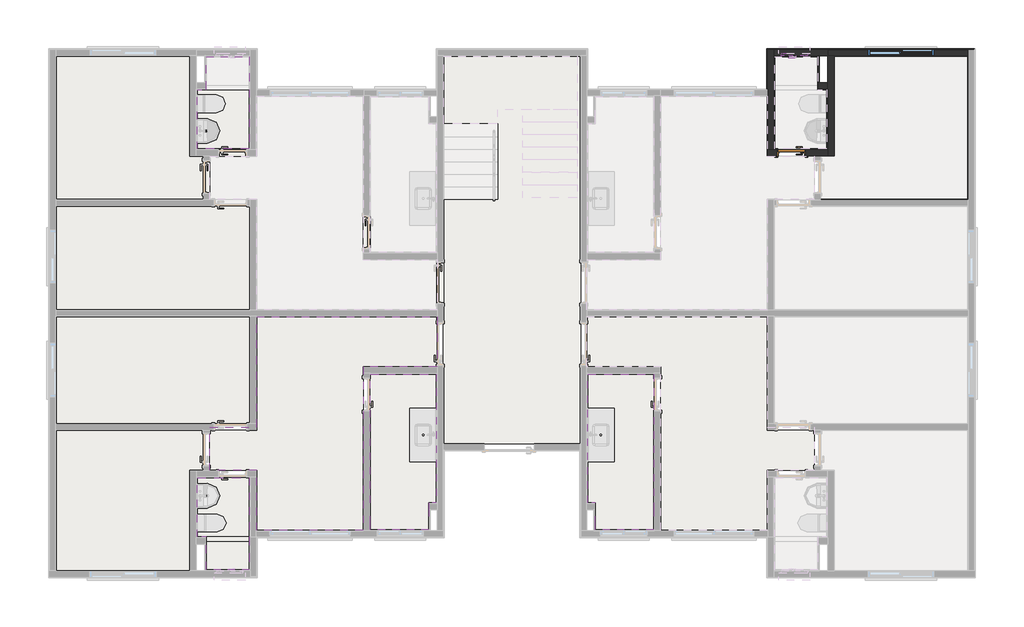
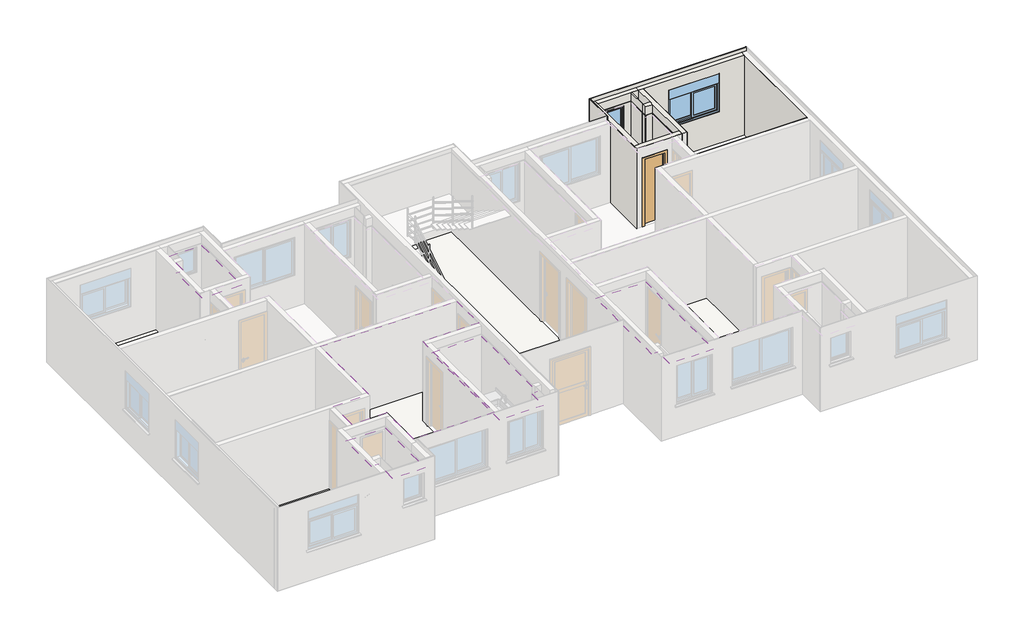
# One storey, part 8 of 9: 22 walls, 15 slabs, 5 coverings, 2 windows, 1 door.
"""IFC4 building model written with IfcOpenShell, lengths in millimetres."""

from ifc_helpers import new_model, si_unit, frame, origin, place, context, project, spatial, polyline, outline, extrude, faceted_brep, transform, mapped, element, save
from components import porta_de_madeira_interna_60_x_210_porta_de_madeira_interna_53f76a03, window_150x120_581fea6a, window_60x80_d31b0025

model = new_model("IFC4")

# Units and contexts
model_context = context("Model", 3, world=origin())
ifc_project = project(units=[si_unit("LENGTHUNIT", "METRE", prefix="MILLI")], contexts=[model_context])

# Site, building, storey
site = spatial("IfcSite", under=ifc_project)
building = spatial("IfcBuilding", under=site)
storey = spatial("IfcBuildingStorey", under=building, Name="2º Pavimento", Elevation=2630.0)

# Coverings
placement = place(None, origin())
element("IfcCovering", 1, ObjectType="Forro - Gesso acartonado + Pintura", at=placement, inside=storey, context=model_context, shape_type="Brep", body=[
    faceted_brep([(8536.99631, 1539.9983274, 4831.0), (7233.0017324, 1539.9983274, 4831.0), (7233.0017324, 2145.0132549, 4831.0), (7233.0017324, 5033.6603139, 4831.0), (8709.9963008, 5033.6603139, 4831.0), (8709.9963008, 2145.0132549, 4831.0), (8536.99631, 2145.0132549, 4831.0), (7233.0017324, 1539.9983274, 4851.0), (8536.99631, 1539.9983274, 4851.0), (8536.99631, 2145.0132549, 4851.0), (8709.9963008, 2145.0132549, 4851.0), (8709.9963008, 5033.6603139, 4851.0), (7233.0017324, 5033.6603139, 4851.0), (7233.0017324, 2145.0132549, 4851.0)], [[[0, 1, 2, 3, 4, 5, 6]], [[7, 8, 9, 10, 11, 12, 13]], [[8, 7, 1, 0]], [[9, 8, 0, 6]], [[10, 9, 6, 5]], [[11, 10, 5, 4]], [[12, 11, 4, 3]], [[7, 13, 12, 3, 2, 1]]]),
    faceted_brep([(7233.0017324, 1539.9983274, 4830.0), (8536.99631, 1539.9983274, 4830.0), (8536.99631, 1539.9983274, 4831.0), (7233.0017324, 1539.9983274, 4831.0), (8536.99631, 2145.0132549, 4830.0), (8536.99631, 2145.0132549, 4831.0), (8709.9963008, 2145.0132549, 4830.0), (8709.9963008, 2145.0132549, 4831.0), (8709.9963008, 5033.6603139, 4830.0), (8709.9963008, 5033.6603139, 4831.0), (7233.0017324, 5033.6603139, 4830.0), (7233.0017324, 5033.6603139, 4831.0), (7233.0017324, 2145.0132549, 4830.0), (7233.0017324, 2145.0132549, 4831.0)], [[[0, 1, 2, 3]], [[1, 4, 5, 2]], [[4, 6, 7, 5]], [[6, 8, 9, 7]], [[8, 10, 11, 9]], [[12, 0, 3, 13, 11, 10]], [[3, 2, 5, 7, 9, 11, 13]], [[0, 12, 10, 8, 6, 4, 1]]]),
])
element("IfcCovering", 2, ObjectType="Forro - Gesso acartonado + Pintura", at=placement, inside=storey, context=model_context, shape_type="Brep", body=[
    faceted_brep([(3339.9976538, 2709.9967615, 4831.0), (4509.9990083, 2709.9967615, 4831.0), (4509.9990083, 1379.9983274, 4831.0), (4509.9990083, 639.9950349, 4831.0), (3549.99398, 639.9950349, 4831.0), (3549.99398, 1379.9983274, 4831.0), (3339.9976538, 1379.9983274, 4831.0), (4509.9990083, 2709.9967615, 4851.0), (3339.9976538, 2709.9967615, 4851.0), (3339.9976538, 1379.9983274, 4851.0), (3549.99398, 1379.9983274, 4851.0), (3549.99398, 639.9950349, 4851.0), (4509.9990083, 639.9950349, 4851.0), (4509.9990083, 1379.9983274, 4851.0)], [[[0, 1, 2, 3, 4, 5, 6]], [[7, 8, 9, 10, 11, 12, 13]], [[8, 7, 1, 0]], [[9, 8, 0, 6]], [[10, 9, 6, 5]], [[11, 10, 5, 4]], [[12, 11, 4, 3]], [[7, 13, 12, 3, 2, 1]]]),
    faceted_brep([(4509.9990083, 2709.9967615, 4830.0), (3339.9976538, 2709.9967615, 4830.0), (3339.9976538, 2709.9967615, 4831.0), (4509.9990083, 2709.9967615, 4831.0), (3339.9976538, 1379.9983274, 4830.0), (3339.9976538, 1379.9983274, 4831.0), (3549.99398, 1379.9983274, 4830.0), (3549.99398, 1379.9983274, 4831.0), (3549.99398, 639.9950349, 4830.0), (3549.99398, 639.9950349, 4831.0), (4509.9990083, 639.9950349, 4830.0), (4509.9990083, 639.9950349, 4831.0), (4509.9990083, 1379.9983274, 4830.0), (4509.9990083, 1379.9983274, 4831.0)], [[[0, 1, 2, 3]], [[1, 4, 5, 2]], [[4, 6, 7, 5]], [[6, 8, 9, 7]], [[8, 10, 11, 9]], [[12, 0, 3, 13, 11, 10]], [[3, 2, 5, 7, 9, 11, 13]], [[0, 12, 10, 8, 6, 4, 1]]]),
])
element("IfcCovering", 3, ObjectType="Forro - Gesso acartonado + Pintura", at=placement, inside=storey, context=model_context, shape_type="Brep", body=[
    faceted_brep([(4509.9990083, 10090.0238664, 4831.0), (3339.9976538, 10090.0238664, 4831.0), (3339.9976538, 11420.0223004, 4831.0), (3549.99398, 11420.0223004, 4831.0), (3549.99398, 12160.025593, 4831.0), (4509.9990083, 12160.025593, 4831.0), (4509.9990083, 11420.0223004, 4831.0), (4509.9990083, 10090.0238664, 4851.0), (4509.9990083, 11420.0223004, 4851.0), (4509.9990083, 12160.025593, 4851.0), (3549.99398, 12160.025593, 4851.0), (3549.99398, 11420.0223004, 4851.0), (3339.9976538, 11420.0223004, 4851.0), (3339.9976538, 10090.0238664, 4851.0)], [[[0, 1, 2, 3, 4, 5, 6]], [[7, 8, 9, 10, 11, 12, 13]], [[7, 13, 1, 0]], [[13, 12, 2, 1]], [[12, 11, 3, 2]], [[11, 10, 4, 3]], [[10, 9, 5, 4]], [[9, 8, 7, 0, 6, 5]]]),
    faceted_brep([(3339.9976538, 10090.0238664, 4830.0), (4509.9990083, 10090.0238664, 4830.0), (4509.9990083, 10090.0238664, 4831.0), (3339.9976538, 10090.0238664, 4831.0), (3339.9976538, 11420.0223004, 4830.0), (3339.9976538, 11420.0223004, 4831.0), (3549.99398, 11420.0223004, 4830.0), (3549.99398, 11420.0223004, 4831.0), (3549.99398, 12160.025593, 4830.0), (3549.99398, 12160.025593, 4831.0), (4509.9990083, 12160.025593, 4830.0), (4509.9990083, 12160.025593, 4831.0), (4509.9990083, 11420.0223004, 4830.0), (4509.9990083, 11420.0223004, 4831.0)], [[[0, 1, 2, 3]], [[4, 0, 3, 5]], [[6, 4, 5, 7]], [[8, 6, 7, 9]], [[10, 8, 9, 11]], [[12, 10, 11, 13, 2, 1]], [[3, 2, 13, 11, 9, 7, 5]], [[1, 0, 4, 6, 8, 10, 12]]]),
])
element("IfcCovering", 4, ObjectType="Forro - Gesso acartonado + Pintura", at=placement, inside=storey, context=model_context, shape_type="Brep", body=[
    faceted_brep([(13586.992975, 1539.9983274, 4831.0), (12282.9983974, 1539.9983274, 4831.0), (12282.9983974, 2145.0132549, 4831.0), (12109.9984066, 2145.0132549, 4831.0), (12109.9984066, 5033.6603139, 4831.0), (13586.992975, 5033.6603139, 4831.0), (13586.992975, 2145.0132549, 4831.0), (13586.992975, 1539.9983274, 4851.0), (13586.992975, 2145.0132549, 4851.0), (13586.992975, 5033.6603139, 4851.0), (12109.9984066, 5033.6603139, 4851.0), (12109.9984066, 2145.0132549, 4851.0), (12282.9983974, 2145.0132549, 4851.0), (12282.9983974, 1539.9983274, 4851.0)], [[[0, 1, 2, 3, 4, 5, 6]], [[7, 8, 9, 10, 11, 12, 13]], [[7, 13, 1, 0]], [[13, 12, 2, 1]], [[12, 11, 3, 2]], [[11, 10, 4, 3]], [[10, 9, 5, 4]], [[9, 8, 7, 0, 6, 5]]]),
    faceted_brep([(12282.9983974, 1539.9983274, 4830.0), (13586.992975, 1539.9983274, 4830.0), (13586.992975, 1539.9983274, 4831.0), (12282.9983974, 1539.9983274, 4831.0), (12282.9983974, 2145.0132549, 4830.0), (12282.9983974, 2145.0132549, 4831.0), (12109.9984066, 2145.0132549, 4830.0), (12109.9984066, 2145.0132549, 4831.0), (12109.9984066, 5033.6603139, 4830.0), (12109.9984066, 5033.6603139, 4831.0), (13586.992975, 5033.6603139, 4830.0), (13586.992975, 5033.6603139, 4831.0), (13586.992975, 2145.0132549, 4830.0), (13586.992975, 2145.0132549, 4831.0)], [[[0, 1, 2, 3]], [[4, 0, 3, 5]], [[6, 4, 5, 7]], [[8, 6, 7, 9]], [[10, 8, 9, 11]], [[12, 10, 11, 13, 2, 1]], [[3, 2, 13, 11, 9, 7, 5]], [[1, 0, 4, 6, 8, 10, 12]]]),
])
element("IfcCovering", 5, ObjectType="Textura Laje", at=placement, inside=storey, context=model_context, shape_type="SweptSolid", body=[
    extrude(outline(polyline([(175.9991825, 624.9953844), (175.9991825, 3773.9951411), (3474.9980641, 3773.9951411), (3474.9980641, 2874.9967615), (3174.9977061, 2874.9967615), (3174.9977061, 624.9953844), (175.9991825, 624.9953844)])), frame((0.0, 0.0, 5138.0), z_axis=(0.0, 0.0, 1.0), x_axis=(1.0, 0.0, 0.0)), (0.0, 0.0, 1.0), 2.0),
    extrude(outline(polyline([(174.9992567, 3926.5903488), (174.9992567, 6325.0103139), (4524.9996867, 6325.0103139), (4524.9996867, 3926.5903488), (174.9992567, 3926.5903488)])), frame((0.0, 0.0, 5138.0), z_axis=(0.0, 0.0, 1.0), x_axis=(1.0, 0.0, 0.0)), (0.0, 0.0, 1.0), 2.0),
    extrude(outline(polyline([(4675.9996867, 3843.9961476), (4675.9996867, 6324.0103139), (8729.9963008, 6324.0103139), (8729.9963008, 5199.6603139), (8709.865378, 5199.6603139), (7066.9986861, 5199.6603139), (7066.9986861, 1525.9983274), (4675.9990083, 1525.9983274), (4675.9990083, 2875.9967615), (3625.9980641, 2875.9967615), (3625.9980641, 3843.9961476), (4675.9996867, 3843.9961476)])), frame((0.0, 0.0, 5138.0), z_axis=(0.0, 0.0, 1.0), x_axis=(1.0, 0.0, 0.0)), (0.0, 0.0, 1.0), 2.0),
])

# Door
porta_de_madeira_interna_60_x_210_porta_de_madeira_interna_shape = porta_de_madeira_interna_60_x_210_porta_de_madeira_interna_53f76a03(model_context)
element("IfcDoor", 6, ObjectType="Porta de Madeira Interna 60 x 210 : Porta de Madeira Interna 60 x 210", at=placement, inside=storey, context=model_context, shape_type="MappedRepresentation", body=[
    mapped(porta_de_madeira_interna_60_x_210_porta_de_madeira_interna_shape, transform((16681.9956991, 10003.1988664, 2630.0), x_axis=(-1.0, 0.0, 0.0), y_axis=(0.0, -1.0, 0.0), z_axis=(0.0, 0.0, 1.0))),
])

# Slabs
element("IfcSlab", 7, ObjectType="Cerâmica piso + Impermeabilização", at=placement, inside=storey, context=model_context, shape_type="SweptSolid", body=[
    extrude(outline(polyline([(4509.99398, 1294.9970972), (4509.99398, 639.9950349), (3549.99398, 639.9950349), (3549.99398, 1294.9970972), (4509.99398, 1294.9970972)])), frame((0.0, 0.0, 2629.0), z_axis=(0.0, 0.0, 1.0), x_axis=(1.0, 0.0, 0.0)), (0.0, 0.0, 1.0), 11.0),
])
element("IfcSlab", 8, ObjectType="Pedra Basalto", at=placement, inside=storey, context=model_context, shape_type="SweptSolid", body=[
    extrude(outline(polyline([(4509.99398, 1284.9970972), (3529.99398, 1284.9970972), (3529.99398, 1384.9970972), (4509.99398, 1384.9970972), (4509.99398, 1284.9970972)])), frame((0.0, 0.0, 2720.0), z_axis=(0.0, 0.0, 1.0), x_axis=(1.0, 0.0, 0.0)), (0.0, 0.0, 1.0), 20.0),
])
element("IfcSlab", 9, ObjectType="Cerâmica", at=placement, inside=storey, context=model_context, shape_type="SweptSolid", body=[
    extrude(outline(polyline([(4509.9990083, 1379.9970972), (3339.9976538, 1379.9970972), (3339.9976538, 2709.9967615), (4509.9990083, 2709.9967615), (4509.9990083, 1379.9970972)])), frame((0.0, 0.0, 2630.0), z_axis=(0.0, 0.0, 1.0), x_axis=(1.0, 0.0, 0.0)), (0.0, 0.0, 1.0), 10.0),
])
element("IfcSlab", 10, ObjectType="Cerâmica", at=placement, inside=storey, context=model_context, shape_type="SweptSolid", body=[
    extrude(outline(polyline([(8709.9963008, 5033.6603139), (8709.9963008, 2145.0132549), (8536.99631, 2145.0132549), (8536.99631, 1539.9983274), (7233.0017324, 1539.9983274), (7233.0017324, 2145.0132549), (7233.0017324, 5033.6603139), (8709.9963008, 5033.6603139)])), frame((0.0, 0.0, 2630.0), z_axis=(0.0, 0.0, 1.0), x_axis=(1.0, 0.0, 0.0)), (0.0, 0.0, 1.0), 10.0),
])
element("IfcSlab", 11, ObjectType="Cerâmica", at=placement, inside=storey, context=model_context, shape_type="SweptSolid", body=[
    extrude(outline(polyline([(4509.9990083, 11420.0235306), (4509.9990083, 10090.0238664), (3339.9976538, 10090.0238664), (3339.9976538, 11420.0235306), (4509.9990083, 11420.0235306)])), frame((0.0, 0.0, 2630.0), z_axis=(0.0, 0.0, 1.0), x_axis=(1.0, 0.0, 0.0)), (0.0, 0.0, 1.0), 10.0),
])
element("IfcSlab", 12, ObjectType="Cerâmica", at=placement, inside=storey, context=model_context, shape_type="SweptSolid", body=[
    extrude(outline(polyline([(8723.9963008, 6324.0103139), (8723.9963008, 5199.6603139), (7066.9986861, 5199.6603139), (7066.9986861, 1519.9983274), (4675.9990083, 1519.9983274), (4675.9990083, 2875.9967615), (3625.9980641, 2875.9967615), (3625.9980641, 3773.9951411), (4675.9996867, 3773.9951411), (4675.9996867, 6324.0103139), (8723.9963008, 6324.0103139)])), frame((0.0, 0.0, 2630.0), z_axis=(0.0, 0.0, 1.0), x_axis=(1.0, 0.0, 0.0)), (0.0, 0.0, 1.0), 10.0),
])
element("IfcSlab", 13, ObjectType="Vinilico", at=placement, inside=storey, context=model_context, shape_type="SweptSolid", body=[
    extrude(outline(polyline([(4523.9996867, 6324.0103139), (4523.9996867, 3925.9951411), (175.9991825, 3925.9951411), (175.9991825, 6324.0103139), (4523.9996867, 6324.0103139)])), frame((0.0, 0.0, 2630.0), z_axis=(0.0, 0.0, 1.0), x_axis=(1.0, 0.0, 0.0)), (0.0, 0.0, 1.0), 10.0),
])
element("IfcSlab", 14, ObjectType="Vinilico", at=placement, inside=storey, context=model_context, shape_type="SweptSolid", body=[
    extrude(outline(polyline([(4523.9996867, 8804.0244803), (4523.9996867, 6476.0103139), (175.9991825, 6476.0103139), (175.9991825, 8804.0244803), (4523.9996867, 8804.0244803)])), frame((0.0, 0.0, 2630.0), z_axis=(0.0, 0.0, 1.0), x_axis=(1.0, 0.0, 0.0)), (0.0, 0.0, 1.0), 10.0),
])
element("IfcSlab", 15, ObjectType="Vinilico", at=placement, inside=storey, context=model_context, shape_type="SweptSolid", body=[
    extrude(outline(polyline([(175.9991825, 12174.0253822), (3173.9976538, 12174.0253822), (3173.9976538, 9924.0253822), (3473.9976538, 9924.0253822), (3473.9976538, 8954.0253822), (175.9991825, 8954.0253822), (175.9991825, 12174.0253822)])), frame((0.0, 0.0, 2630.0), z_axis=(0.0, 0.0, 1.0), x_axis=(1.0, 0.0, 0.0)), (0.0, 0.0, 1.0), 10.0),
])
element("IfcSlab", 16, ObjectType="Vinilico", at=placement, inside=storey, context=model_context, shape_type="SweptSolid", body=[
    extrude(outline(polyline([(175.9991825, 625.9952456), (175.9991825, 3845.9952456), (3473.9976538, 3845.9952456), (3473.9976538, 2875.9952456), (3173.9976538, 2875.9952456), (3173.9976538, 625.9952456), (175.9991825, 625.9952456)])), frame((0.0, 0.0, 2630.0), z_axis=(0.0, 0.0, 1.0), x_axis=(1.0, 0.0, 0.0)), (0.0, 0.0, 1.0), 10.0),
])
element("IfcSlab", 17, ObjectType="Cerâmica", at=placement, inside=storey, context=model_context, shape_type="SweptSolid", body=[
    extrude(outline(polyline([(12109.9984066, 5033.6603139), (13586.992975, 5033.6603139), (13586.992975, 2145.0132549), (13586.992975, 1539.9983274), (12282.9983974, 1539.9983274), (12282.9983974, 2145.0132549), (12109.9984066, 2145.0132549), (12109.9984066, 5033.6603139)])), frame((0.0, 0.0, 2630.0), z_axis=(0.0, 0.0, 1.0), x_axis=(1.0, 0.0, 0.0)), (0.0, 0.0, 1.0), 10.0),
])
element("IfcSlab", 18, ObjectType="Cerâmica", at=placement, inside=storey, context=model_context, shape_type="SweptSolid", body=[
    extrude(outline(polyline([(12095.9984066, 6324.0103139), (16143.9950207, 6324.0103139), (16143.9950207, 3773.9951411), (17193.9966432, 3773.9951411), (17193.9966432, 2875.9967615), (16143.9956991, 2875.9967615), (16143.9956991, 1519.9983274), (13752.9960213, 1519.9983274), (13752.9960213, 5199.6603139), (12095.9984066, 5199.6603139), (12095.9984066, 6324.0103139)])), frame((0.0, 0.0, 2630.0), z_axis=(0.0, 0.0, 1.0), x_axis=(1.0, 0.0, 0.0)), (0.0, 0.0, 1.0), 10.0),
])
element("IfcSlab", 19, ObjectType="Soleira", at=placement, inside=storey, context=model_context, shape_type="SweptSolid", body=[
    extrude(outline(polyline([(3625.9980641, 9832.0248023), (3625.9980641, 9082.0248023), (3473.9980641, 9082.0248023), (3473.9980641, 9832.0248023), (3625.9980641, 9832.0248023)])), frame((0.0, 0.0, 2630.0), z_axis=(0.0, 0.0, 1.0), x_axis=(1.0, 0.0, 0.0)), (0.0, 0.0, 1.0), 10.0),
    extrude(outline(polyline([(4462.9990083, 10090.0238664), (4462.9990083, 9924.0238664), (3812.9990083, 9924.0238664), (3812.9990083, 10090.0238664), (4462.9990083, 10090.0238664)])), frame((0.0, 0.0, 2630.0), z_axis=(0.0, 0.0, 1.0), x_axis=(1.0, 0.0, 0.0)), (0.0, 0.0, 1.0), 10.0),
])
element("IfcSlab", 20, ObjectType="Soleira", at=placement, inside=storey, context=model_context, shape_type="SweptSolid", body=[
    extrude(outline(polyline([(7233.0017324, 8596.3603139), (7233.0017324, 7846.3603139), (7066.9986861, 7846.3603139), (7066.9986861, 8596.3603139), (7233.0017324, 8596.3603139)])), frame((0.0, 0.0, 2630.0), z_axis=(0.0, 0.0, 1.0), x_axis=(1.0, 0.0, 0.0)), (0.0, 0.0, 1.0), 10.0),
    extrude(outline(polyline([(8723.9963008, 7560.0103139), (8875.9991022, 7560.0103139), (8875.9991022, 6610.0103139), (8723.9963008, 6610.0103139), (8723.9963008, 7560.0103139)])), frame((0.0, 0.0, 2630.0), z_axis=(0.0, 0.0, 1.0), x_axis=(1.0, 0.0, 0.0)), (0.0, 0.0, 1.0), 10.0),
])
element("IfcSlab", 21, ObjectType="Porcelanato", at=placement, inside=storey, context=model_context, shape_type="SweptSolid", body=[
    extrude(outline(polyline([(11949.9956991, 3470.00443), (8869.9991022, 3470.00443), (8869.9991022, 12179.9988127), (11949.9956991, 12179.9988127), (11949.9956991, 3470.00443)])), frame((0.0, 0.0, 2630.0), z_axis=(0.0, 0.0, 1.0), x_axis=(1.0, 0.0, 0.0)), (0.0, 0.0, 1.0), 10.0),
])

# Walls
element("IfcWall", 22, ObjectType="Mureta box", at=placement, inside=storey, context=model_context, shape_type="SweptSolid", body=[
    extrude(outline(polyline([(16310.0007274, 11505.0235306), (17290.0007274, 11505.0235306), (17290.0007274, 11495.0235306), (16310.0007274, 11495.0235306), (16310.0007274, 11505.0235306)])), frame((0.0, 0.0, 2630.0), z_axis=(0.0, 0.0, 1.0), x_axis=(1.0, 0.0, 0.0)), (0.0, 0.0, 1.0), 90.0),
    extrude(outline(polyline([(17290.0007274, 11425.0235306), (16310.0007274, 11425.0235306), (16310.0007274, 11435.0235306), (17290.0007274, 11435.0235306), (17290.0007274, 11425.0235306)])), frame((0.0, 0.0, 2630.0), z_axis=(0.0, 0.0, 1.0), x_axis=(1.0, 0.0, 0.0)), (0.0, 0.0, 1.0), 90.0),
    extrude(outline(polyline([(17290.0007274, 11495.0235306), (17290.0007274, 11435.0235306), (16310.0007274, 11435.0235306), (16310.0007274, 11495.0235306), (17290.0007274, 11495.0235306)])), frame((0.0, 0.0, 2630.0), z_axis=(0.0, 0.0, 1.0), x_axis=(1.0, 0.0, 0.0)), (0.0, 0.0, 1.0), 90.0),
])
element("IfcWall", 23, ObjectType="Alvenaria Estrutural", at=placement, inside=storey, context=model_context, shape_type="Brep", body=[
    faceted_brep([(20649.9955249, 12320.0252435, 2630.0), (17499.9970013, 12320.0252435, 2630.0), (17499.9970013, 12320.0252435, 5140.0), (20649.9955249, 12320.0252435, 5140.0), (18394.9962631, 12320.0252435, 4830.0), (18394.9962631, 12320.0252435, 3630.0), (18344.9962631, 12320.0252435, 3630.0), (18344.9962631, 12320.0252435, 3581.3083694), (19944.9962631, 12320.0252435, 3581.3083694), (19944.9962631, 12320.0252435, 3630.0), (19894.9962631, 12320.0252435, 3630.0), (19894.9962631, 12320.0252435, 4830.0), (17499.9970013, 12180.0252435, 2630.0), (17639.9970013, 12180.0252435, 2630.0), (20643.9955249, 12180.0252435, 2630.0), (20649.9955249, 12180.0252435, 2630.0), (20649.9955249, 12180.0252435, 5140.0), (20643.9955249, 12180.0252435, 5140.0), (17639.9970013, 12180.0252435, 5140.0), (17499.9970013, 12180.0252435, 5140.0), (18394.9962631, 12180.0252435, 3630.0), (18394.9962631, 12180.0252435, 4830.0), (19894.9962631, 12180.0252435, 4830.0), (19894.9962631, 12180.0252435, 3630.0), (18394.9962631, 12222.5252435, 3630.0), (19894.9962631, 12222.5252435, 3630.0), (19944.9962631, 12222.5252435, 3602.0326341), (19944.9962631, 12222.5252435, 3630.0), (18344.9962631, 12222.5252435, 3630.0), (18344.9962631, 12222.5252435, 3602.0326341)], [[[0, 1, 2, 3], [4, 5, 6, 7, 8, 9, 10, 11]], [[12, 13, 14, 15, 16, 17, 18, 19], [20, 21, 22, 23]], [[1, 0, 15, 14, 13, 12]], [[3, 2, 19, 18, 17, 16]], [[5, 4, 21, 20, 24]], [[4, 11, 22, 21]], [[11, 10, 25, 23, 22]], [[20, 23, 25, 24]], [[9, 8, 26, 27]], [[7, 6, 28, 29]], [[24, 25, 27, 26, 29, 28]], [[10, 9, 27, 25]], [[8, 7, 29, 26]], [[2, 1, 12, 19]], [[0, 3, 16, 15]], [[6, 5, 24, 28]]]),
])
element("IfcWall", 24, ObjectType="Alvenaria Estrutural", at=placement, inside=storey, context=model_context, shape_type="Brep", body=[
    faceted_brep([(17499.9970013, 12320.025593, 2630.0), (16289.9960602, 12320.025593, 2630.0), (16289.9960602, 12320.025593, 5140.0), (17499.9970013, 12320.025593, 5140.0), (17099.9960602, 12320.025593, 3981.3083694), (17099.9960602, 12320.025593, 4030.0), (17049.9960602, 12320.025593, 4030.0), (17049.9960602, 12320.025593, 4830.0), (16449.9960602, 12320.025593, 4830.0), (16449.9960602, 12320.025593, 4030.0), (16399.9960602, 12320.025593, 4030.0), (16399.9960602, 12320.025593, 3981.3083694), (16289.9960602, 12180.025593, 2630.0), (16309.9956991, 12180.025593, 2630.0), (17280.0007274, 12180.025593, 2630.0), (17303.0007274, 12180.025593, 2630.0), (17499.9970013, 12180.025593, 2630.0), (17499.9970013, 12180.025593, 5140.0), (17303.0007274, 12180.025593, 5140.0), (17280.0007274, 12180.025593, 5140.0), (16289.9960602, 12180.025593, 5140.0), (16289.9960602, 12180.025593, 4880.0), (16449.9960602, 12180.025593, 4030.0), (16449.9960602, 12180.025593, 4830.0), (17049.9960602, 12180.025593, 4830.0), (17049.9960602, 12180.025593, 4030.0), (17099.9960602, 12222.525593, 4002.0326341), (17099.9960602, 12222.525593, 4030.0), (16399.9960602, 12222.525593, 4030.0), (16399.9960602, 12222.525593, 4002.0326341), (16449.9960602, 12222.525593, 4030.0), (17049.9960602, 12222.525593, 4030.0)], [[[0, 1, 2, 3], [4, 5, 6, 7, 8, 9, 10, 11]], [[12, 13, 14, 15, 16, 17, 18, 19, 20, 21], [22, 23, 24, 25]], [[1, 0, 16, 15, 14, 13, 12]], [[3, 2, 20, 19, 18, 17]], [[5, 4, 26, 27]], [[11, 10, 28, 29]], [[27, 26, 29, 28, 30, 31]], [[6, 5, 27, 31]], [[4, 11, 29, 26]], [[9, 8, 23, 22, 30]], [[8, 7, 24, 23]], [[7, 6, 31, 25, 24]], [[22, 25, 31, 30]], [[0, 3, 17, 16]], [[2, 1, 12, 21, 20]], [[10, 9, 30, 28]]]),
])
element("IfcWall", 25, ObjectType="Alvenaria Estrutural", at=placement, inside=storey, context=model_context, shape_type="Brep", body=[
    faceted_brep([(17499.9970013, 12180.0252435, 2630.0), (17499.9970013, 11580.0235306, 2630.0), (17499.9970013, 11440.0235306, 2630.0), (17499.9970013, 11420.0235306, 2630.0), (17499.9970013, 10090.0238664, 2630.0), (17499.9970013, 10070.0238664, 2630.0), (17499.9970013, 9930.025593, 2630.0), (17499.9970013, 9930.025593, 5140.0), (17499.9970013, 10070.0238664, 5140.0), (17499.9970013, 11440.0235306, 5140.0), (17499.9970013, 11580.0235306, 5140.0), (17499.9970013, 12180.0252435, 5140.0), (17639.9970013, 12180.0252435, 2630.0), (17639.9970013, 12180.0252435, 5140.0), (17639.9970013, 12174.0253822, 5140.0), (17639.9970013, 9930.025593, 5140.0), (17639.9970013, 9930.025593, 2630.0), (17639.9970013, 12174.0253822, 2630.0)], [[[0, 1, 2, 3, 4, 5, 6, 7, 8, 9, 10, 11]], [[12, 13, 14, 15, 16, 17]], [[1, 0, 12, 17, 16, 6, 5, 4, 3, 2]], [[7, 6, 16, 15]], [[8, 7, 15, 14, 13, 11, 10, 9]], [[0, 11, 13, 12]]]),
])
element("IfcWall", 26, ObjectType="Alvenaria Estrutural", at=placement, inside=storey, context=model_context, shape_type="Brep", body=[
    faceted_brep([(17499.9970013, 11580.0235306, 2630.0), (17303.0007274, 11580.0235306, 2630.0), (17280.0007274, 11580.0235306, 2630.0), (17280.0007274, 11580.0235306, 5140.0), (17303.0007274, 11580.0235306, 5140.0), (17499.9970013, 11580.0235306, 5140.0), (17499.9970013, 11440.0235306, 2630.0), (17499.9970013, 11440.0235306, 5140.0), (17280.0007274, 11440.0235306, 5140.0), (17280.0007274, 11440.0235306, 2630.0)], [[[0, 1, 2, 3, 4, 5]], [[6, 7, 8, 9]], [[1, 0, 6, 9, 2]], [[4, 3, 8, 7, 5]], [[3, 2, 9, 8]], [[0, 5, 7, 6]]]),
])
element("IfcWall", 27, ObjectType="Alvenaria Estrutural", at=placement, inside=storey, context=model_context, shape_type="Brep", body=[
    faceted_brep([(16149.9960602, 10070.0238664, 5140.0), (16289.9960602, 10070.0238664, 5140.0), (17499.9970013, 10070.0238664, 5140.0), (17499.9970013, 10070.0238664, 4880.0), (17499.9970013, 10070.0238664, 2630.0), (17006.9956991, 10070.0238664, 2630.0), (17006.9956991, 10070.0238664, 4755.0), (16356.9956991, 10070.0238664, 4755.0), (16356.9956991, 10070.0238664, 2630.0), (16289.9960602, 10070.0238664, 2630.0), (16149.9960602, 10070.0238664, 2630.0), (17499.9970013, 9930.0238664, 5140.0), (17339.9966432, 9930.0238664, 5140.0), (17199.9966432, 9930.0238664, 5140.0), (17193.9966432, 9930.0238664, 5140.0), (16149.9960602, 9930.0238664, 5140.0), (16149.9960602, 9930.0238664, 2630.0), (16356.9956991, 9930.0238664, 2630.0), (16356.9956991, 9930.0238664, 4755.0), (17006.9956991, 9930.0238664, 4755.0), (17006.9956991, 9930.0238664, 2630.0), (17193.9966432, 9930.0238664, 2630.0), (17199.9966432, 9930.0238664, 2630.0), (17339.9966432, 9930.0238664, 2630.0), (17499.9970013, 9930.0238664, 2630.0)], [[[0, 1, 2, 3, 4, 5, 6, 7, 8, 9, 10]], [[11, 12, 13, 14, 15, 16, 17, 18, 19, 20, 21, 22, 23, 24]], [[5, 4, 24, 23, 22, 21, 20]], [[1, 0, 15, 14, 13, 12, 11, 2]], [[8, 7, 18, 17]], [[7, 6, 19, 18]], [[6, 5, 20, 19]], [[0, 10, 16, 15]], [[3, 2, 11, 24, 4]], [[9, 8, 17, 16, 10]]]),
])
element("IfcWall", 28, ObjectType="Alvenaria Estrutural", at=placement, inside=storey, context=model_context, shape_type="Brep", body=[
    faceted_brep([(16149.9960602, 12320.025593, 2630.0), (16149.9960602, 11436.0223004, 2630.0), (16149.9960602, 11420.0223004, 2630.0), (16149.9960602, 11280.0223004, 2630.0), (16149.9960602, 11274.0223004, 2630.0), (16149.9960602, 10070.0238664, 2630.0), (16149.9960602, 10070.0238664, 5140.0), (16149.9960602, 11274.0223004, 5140.0), (16149.9960602, 11280.0223004, 5140.0), (16149.9960602, 11420.0223004, 5140.0), (16149.9960602, 12320.025593, 5140.0), (16289.9960602, 12320.025593, 2630.0), (16289.9960602, 12320.025593, 5140.0), (16289.9960602, 12180.025593, 5140.0), (16289.9960602, 10070.0238664, 5140.0), (16289.9960602, 10070.0238664, 4880.0), (16289.9960602, 10070.0238664, 2630.0), (16289.9960602, 10090.0238664, 2630.0), (16289.9960602, 12180.025593, 2630.0)], [[[0, 1, 2, 3, 4, 5, 6, 7, 8, 9, 10]], [[11, 12, 13, 14, 15, 16, 17, 18]], [[1, 0, 11, 18, 17, 16, 5, 4, 3, 2]], [[7, 6, 14, 13, 12, 10, 9, 8]], [[0, 10, 12, 11]], [[6, 5, 16, 15, 14]]]),
])
element("IfcWall", 29, ObjectType="Azulejo", at=placement, inside=storey, context=model_context, shape_type="SolidModel", body=[
    faceted_brep([(17006.9956991, 10080.0238664, 2630.0), (17006.9956991, 10090.0238664, 2630.0), (17479.9970535, 10090.0238664, 2630.0), (17489.9970535, 10090.0238664, 2630.0), (17489.9970535, 10080.0238664, 2630.0), (17479.9970535, 10090.0238664, 4880.0), (16309.9956991, 10090.0238664, 4880.0), (16299.9956991, 10090.0238664, 4880.0), (16299.9956991, 10080.0238664, 4880.0), (17489.9970535, 10080.0238664, 4880.0), (17489.9970535, 10090.0238664, 4880.0), (16356.9956991, 10090.0238664, 2630.0), (16356.9956991, 10090.0238664, 4755.0), (16356.9956991, 10080.0238664, 4755.0), (16356.9956991, 10080.0238664, 2630.0), (17006.9956991, 10090.0238664, 4755.0), (17006.9956991, 10080.0238664, 4755.0), (16299.9956991, 10080.0238664, 2630.0), (16299.9956991, 10090.0238664, 2630.0), (16309.9956991, 10090.0238664, 2630.0)], [[[0, 1, 2, 3, 4]], [[5, 6, 7, 8, 9, 10]], [[11, 12, 13, 14]], [[13, 12, 15, 16]], [[1, 0, 16, 15]], [[11, 14, 17, 18, 19]], [[14, 13, 16, 0, 4, 9, 8, 17]], [[2, 1, 15, 12, 11, 19, 18, 7, 6, 5, 10, 3]], [[4, 3, 10, 9]], [[8, 7, 18, 17]]]),
    extrude(outline(polyline([(4880.0, 17499.9970013), (4880.0, 16289.9960602), (2630.0, 16289.9960602), (2630.0, 16356.9956991), (4755.0, 16356.9956991), (4755.0, 17006.9956991), (2630.0, 17006.9956991), (2630.0, 17499.9970013), (4880.0, 17499.9970013)])), frame((0.0, 10070.0238664, 0.0), z_axis=(0.0, 1.0, 0.0), x_axis=(0.0, 0.0, 1.0)), (0.0, 0.0, 1.0), 10.0),
])
element("IfcWall", 30, ObjectType="Azulejo", at=placement, inside=storey, context=model_context, shape_type="SolidModel", body=[
    faceted_brep([(16309.9956991, 12160.025593, 2630.0), (16309.9956991, 10090.0238664, 2630.0), (16299.9956991, 10090.0238664, 2630.0), (16299.9956991, 12170.025593, 2630.0), (16309.9956991, 12170.025593, 2630.0), (16299.9956991, 10090.0238664, 4880.0), (16309.9956991, 10090.0238664, 4880.0), (16309.9956991, 12160.025593, 4880.0), (16309.9956991, 12170.025593, 4880.0), (16299.9956991, 12170.025593, 4880.0)], [[[0, 1, 2, 3, 4]], [[5, 6, 7, 8, 9]], [[2, 1, 6, 5]], [[2, 5, 9, 3]], [[1, 0, 4, 8, 7, 6]], [[4, 3, 9, 8]]]),
    extrude(outline(polyline([(16289.9956991, 10080.0238664), (16289.9956991, 12180.025593), (16299.9956991, 12180.025593), (16299.9956991, 10080.0238664), (16289.9956991, 10080.0238664)])), frame((0.0, 0.0, 2630.0), z_axis=(0.0, 0.0, 1.0), x_axis=(1.0, 0.0, 0.0)), (0.0, 0.0, 1.0), 2250.0),
])
element("IfcWall", 31, ObjectType="Azulejo", at=placement, inside=storey, context=model_context, shape_type="SolidModel", body=[
    faceted_brep([(17270.0007274, 12160.025593, 2630.0), (16309.9956991, 12160.025593, 2630.0), (16309.9956991, 12170.025593, 2630.0), (17280.0007274, 12170.025593, 2630.0), (17280.0007274, 12160.025593, 2630.0), (17270.0007274, 12160.025593, 4880.0), (17280.0007274, 12160.025593, 4880.0), (17280.0007274, 12170.025593, 4880.0), (16309.9956991, 12170.025593, 4880.0), (16309.9956991, 12160.025593, 4880.0), (16449.9960602, 12160.025593, 4830.0), (16449.9960602, 12160.025593, 4030.0), (16449.9960602, 12170.025593, 4030.0), (16449.9960602, 12170.025593, 4830.0), (17049.9960602, 12160.025593, 4830.0), (17049.9960602, 12170.025593, 4830.0), (17049.9960602, 12160.025593, 4030.0), (17049.9960602, 12170.025593, 4030.0)], [[[0, 1, 2, 3, 4]], [[5, 6, 7, 8, 9]], [[10, 11, 12, 13]], [[14, 10, 13, 15]], [[16, 14, 15, 17]], [[11, 16, 17, 12]], [[1, 9, 8, 2]], [[6, 4, 3, 7]], [[3, 2, 8, 7], [13, 12, 17, 15]], [[1, 0, 4, 6, 5, 9], [11, 10, 14, 16]]]),
    extrude(outline(polyline([(2630.0, 16299.9956991), (2630.0, 17280.0007274), (4880.0, 17280.0007274), (4880.0, 16299.9956991), (2630.0, 16299.9956991)]), holes=[polyline([(4030.0, 16449.9960602), (4830.0, 16449.9960602), (4830.0, 17049.9960602), (4030.0, 17049.9960602), (4030.0, 16449.9960602)])]), frame((0.0, 12170.025593, 0.0), z_axis=(0.0, 1.0, 0.0), x_axis=(0.0, 0.0, 1.0)), (0.0, 0.0, 1.0), 10.0),
])
element("IfcWall", 32, ObjectType="Azulejo", at=placement, inside=storey, context=model_context, shape_type="SweptSolid", body=[
    extrude(outline(polyline([(17270.0007274, 11430.0235306), (17270.0007274, 11580.0235306), (17280.0007274, 11580.0235306), (17280.0007274, 11430.0235306), (17270.0007274, 11430.0235306)])), frame((0.0, 0.0, 2630.0), z_axis=(0.0, 0.0, 1.0), x_axis=(1.0, 0.0, 0.0)), (0.0, 0.0, 1.0), 2250.0),
    extrude(outline(polyline([(17290.0007274, 11580.0235306), (17290.0007274, 11440.0235306), (17280.0007274, 11440.0235306), (17280.0007274, 11580.0235306), (17290.0007274, 11580.0235306)])), frame((0.0, 0.0, 2630.0), z_axis=(0.0, 0.0, 1.0), x_axis=(1.0, 0.0, 0.0)), (0.0, 0.0, 1.0), 2250.0),
])
element("IfcWall", 33, ObjectType="Azulejo", at=placement, inside=storey, context=model_context, shape_type="Brep", body=[
    faceted_brep([(17479.9970535, 11420.0235306, 2630.0), (17270.0007274, 11420.0235306, 2630.0), (17270.0007274, 11430.0235306, 2630.0), (17489.9970535, 11430.0235306, 2630.0), (17489.9970535, 11420.0235306, 2630.0), (17270.0007274, 11430.0235306, 4880.0), (17270.0007274, 11420.0235306, 4880.0), (17479.9970535, 11420.0235306, 4880.0), (17489.9970535, 11420.0235306, 4880.0), (17489.9970535, 11430.0235306, 4880.0)], [[[0, 1, 2, 3, 4]], [[5, 6, 7, 8, 9]], [[2, 1, 6, 5]], [[2, 5, 9, 3]], [[1, 0, 4, 8, 7, 6]], [[4, 3, 9, 8]]]),
    faceted_brep([(17280.0007274, 11430.0235306, 2630.0), (17499.9970013, 11430.0235306, 2630.0), (17499.9970013, 11430.0235306, 4880.0), (17280.0007274, 11430.0235306, 4880.0), (17499.9970013, 11440.0235306, 2630.0), (17290.0007274, 11440.0235306, 2630.0), (17280.0007274, 11440.0235306, 2630.0), (17280.0007274, 11440.0235306, 4880.0), (17290.0007274, 11440.0235306, 4880.0), (17499.9970013, 11440.0235306, 4880.0)], [[[0, 1, 2, 3]], [[4, 5, 6, 7, 8, 9]], [[5, 4, 1, 0, 6]], [[8, 7, 3, 2, 9]], [[4, 9, 2, 1]], [[7, 6, 0, 3]]]),
])
element("IfcWall", 34, ObjectType="Azulejo", at=placement, inside=storey, context=model_context, shape_type="SweptSolid", body=[
    extrude(outline(polyline([(17479.9970535, 10090.0238664), (17479.9970535, 11420.0235306), (17489.9970535, 11420.0235306), (17489.9970535, 10090.0238664), (17479.9970535, 10090.0238664)])), frame((0.0, 0.0, 2630.0), z_axis=(0.0, 0.0, 1.0), x_axis=(1.0, 0.0, 0.0)), (0.0, 0.0, 1.0), 2250.0),
    extrude(outline(polyline([(17499.9970535, 11430.0235306), (17499.9970535, 10080.0238664), (17489.9970535, 10080.0238664), (17489.9970535, 11430.0235306), (17499.9970535, 11430.0235306)])), frame((0.0, 0.0, 2630.0), z_axis=(0.0, 0.0, 1.0), x_axis=(1.0, 0.0, 0.0)), (0.0, 0.0, 1.0), 2250.0),
])
element("IfcWall", 35, ObjectType="Azulejo - Shaft", at=placement, inside=storey, context=model_context, shape_type="SweptSolid", body=[
    extrude(outline(polyline([(17270.0007274, 11580.0235306), (17270.0007274, 12160.025593), (17280.0007274, 12160.025593), (17280.0007274, 11580.0235306), (17270.0007274, 11580.0235306)])), frame((0.0, 0.0, 2630.0), z_axis=(0.0, 0.0, 1.0), x_axis=(1.0, 0.0, 0.0)), (0.0, 0.0, 1.0), 2250.0),
])
element("IfcWall", 36, ObjectType="Gesso Liso + Pintura", at=placement, inside=storey, context=model_context, shape_type="SolidModel", body=[
    faceted_brep([(20644.9955249, 8950.0244803, 2630.0), (20643.9955249, 8950.0244803, 2630.0), (20643.9955249, 12174.0253822, 2630.0), (20643.9955249, 12175.0253822, 2630.0), (20644.9955249, 12175.0253822, 2630.0), (20643.9955249, 12174.0253822, 5140.0), (20643.9955249, 8950.0244803, 5140.0), (20644.9955249, 8950.0244803, 5140.0), (20644.9955249, 12175.0253822, 5140.0), (20643.9955249, 12175.0253822, 5140.0)], [[[0, 1, 2, 3, 4]], [[5, 6, 7, 8, 9]], [[1, 0, 7, 6]], [[7, 0, 4, 8]], [[2, 1, 6, 5, 9, 3]], [[4, 3, 9, 8]]]),
    extrude(outline(polyline([(20649.9955249, 12180.0252435), (20649.9955249, 8950.0244803), (20644.9955249, 8950.0244803), (20644.9955249, 12180.0252435), (20649.9955249, 12180.0252435)])), frame((0.0, 0.0, 2630.0), z_axis=(0.0, 0.0, 1.0), x_axis=(1.0, 0.0, 0.0)), (0.0, 0.0, 1.0), 2510.0),
])
element("IfcWall", 37, ObjectType="Gesso Liso + Pintura", at=placement, inside=storey, context=model_context, shape_type="SolidModel", body=[
    faceted_brep([(20643.9955249, 12175.0253822, 2630.0), (20643.9955249, 12174.0253822, 2630.0), (17645.9970535, 12174.0253822, 2630.0), (17644.9970535, 12174.0253822, 2630.0), (17644.9970535, 12175.0253822, 2630.0), (17645.9970535, 12174.0253822, 5140.0), (20643.9955249, 12174.0253822, 5140.0), (20643.9955249, 12175.0253822, 5140.0), (17644.9970535, 12175.0253822, 5140.0), (17644.9970535, 12174.0253822, 5140.0), (18394.9962631, 12174.0253822, 4830.0), (18394.9962631, 12174.0253822, 3630.0), (18394.9962631, 12175.0253822, 3630.0), (18394.9962631, 12175.0253822, 4830.0), (19894.9962631, 12175.0253822, 4830.0), (19894.9962631, 12174.0253822, 4830.0), (19894.9962631, 12175.0253822, 3630.0), (19894.9962631, 12174.0253822, 3630.0)], [[[0, 1, 2, 3, 4]], [[5, 6, 7, 8, 9]], [[10, 11, 12, 13]], [[10, 13, 14, 15]], [[15, 14, 16, 17]], [[12, 11, 17, 16]], [[1, 0, 7, 6]], [[7, 0, 4, 8], [13, 12, 16, 14]], [[2, 1, 6, 5, 9, 3], [11, 10, 15, 17]], [[4, 3, 9, 8]]]),
    extrude(outline(polyline([(2630.0, 17639.9970013), (2630.0, 20644.9955249), (5140.0, 20644.9955249), (5140.0, 17639.9970013), (2630.0, 17639.9970013)]), holes=[polyline([(3630.0, 18394.9962631), (4830.0, 18394.9962631), (4830.0, 19894.9962631), (3630.0, 19894.9962631), (3630.0, 18394.9962631)])]), frame((0.0, 12175.0253822, 0.0), z_axis=(0.0, 1.0, 0.0), x_axis=(0.0, 0.0, 1.0)), (0.0, 0.0, 1.0), 5.0),
])
element("IfcWall", 38, ObjectType="Gesso Liso + Pintura", at=placement, inside=storey, context=model_context, shape_type="SolidModel", body=[
    extrude(outline(polyline([(17645.9970535, 12174.0253822), (17645.9970535, 9924.0238664), (17644.9970535, 9924.0238664), (17644.9970535, 12174.0253822), (17645.9970535, 12174.0253822)])), frame((0.0, 0.0, 2630.0), z_axis=(0.0, 0.0, 1.0), x_axis=(1.0, 0.0, 0.0)), (0.0, 0.0, 1.0), 2510.0),
    faceted_brep([(17644.9970535, 9925.0238664, 2630.0), (17644.9970535, 12175.0253822, 2630.0), (17644.9970535, 12175.0253822, 5140.0), (17644.9970535, 9925.0238664, 5140.0), (17639.9970535, 12175.0253822, 2630.0), (17639.9970535, 9930.0238664, 2630.0), (17639.9970535, 9925.0238664, 2630.0), (17639.9970535, 9925.0238664, 5140.0), (17639.9970535, 9930.0238664, 5140.0), (17639.9970535, 12175.0253822, 5140.0)], [[[0, 1, 2, 3]], [[4, 5, 6, 7, 8, 9]], [[5, 4, 1, 0, 6]], [[8, 7, 3, 2, 9]], [[4, 9, 2, 1]], [[7, 6, 0, 3]]]),
])
element("IfcWall", 39, ObjectType="Gesso Liso + Pintura", at=placement, inside=storey, context=model_context, shape_type="SweptSolid", body=[
    extrude(outline(polyline([(17345.9966432, 8956.0244803), (20649.9955249, 8956.0244803), (20649.9955249, 8955.0244803), (17345.9966432, 8955.0244803), (17345.9966432, 8956.0244803)])), frame((0.0, 0.0, 2630.0), z_axis=(0.0, 0.0, 1.0), x_axis=(1.0, 0.0, 0.0)), (0.0, 0.0, 1.0), 2510.0),
    extrude(outline(polyline([(20649.9955249, 8950.0244803), (17344.9966432, 8950.0244803), (17344.9966432, 8955.0244803), (20649.9955249, 8955.0244803), (20649.9955249, 8950.0244803)])), frame((0.0, 0.0, 2630.0), z_axis=(0.0, 0.0, 1.0), x_axis=(1.0, 0.0, 0.0)), (0.0, 0.0, 1.0), 2510.0),
])
element("IfcWall", 40, ObjectType="Gesso Liso + Pintura", at=placement, inside=storey, context=model_context, shape_type="SolidModel", body=[
    extrude(outline(polyline([(16143.9956991, 9924.0238664), (16143.9956991, 11280.0223004), (16144.9956991, 11280.0223004), (16144.9956991, 9924.0238664), (16143.9956991, 9924.0238664)])), frame((0.0, 0.0, 2630.0), z_axis=(0.0, 0.0, 1.0), x_axis=(1.0, 0.0, 0.0)), (0.0, 0.0, 1.0), 2510.0),
    faceted_brep([(16144.9956991, 11280.0223004, 2630.0), (16144.9956991, 9925.0238664, 2630.0), (16144.9956991, 9925.0238664, 5140.0), (16144.9956991, 11280.0223004, 5140.0), (16149.9956991, 11280.0223004, 2630.0), (16149.9956991, 11280.0223004, 5140.0), (16149.9956991, 9930.0238664, 5140.0), (16149.9956991, 9925.0238664, 5140.0), (16149.9956991, 9925.0238664, 2630.0), (16149.9956991, 9930.0238664, 2630.0)], [[[0, 1, 2, 3]], [[4, 5, 6, 7, 8, 9]], [[9, 8, 1, 0, 4]], [[6, 5, 3, 2, 7]], [[5, 4, 0, 3]], [[8, 7, 2, 1]]]),
])
element("IfcWall", 41, ObjectType="Reboco + Pintura Externa", at=placement, inside=storey, context=model_context, shape_type="SolidModel", body=[
    extrude(outline(polyline([(2630.0, 16133.9970535), (2630.0, 20804.9970535), (5260.0, 20804.9970535), (5260.0, 16133.9970535), (2630.0, 16133.9970535)]), holes=[polyline([(3630.0, 18394.9962631), (4830.0, 18394.9962631), (4830.0, 19894.9962631), (3630.0, 19894.9962631), (3630.0, 18394.9962631)]), polyline([(4030.0, 16449.9960602), (4830.0, 16449.9960602), (4830.0, 17049.9960602), (4030.0, 17049.9960602), (4030.0, 16449.9960602)])]), frame((0.0, 12334.9952456, 0.0), z_axis=(0.0, 1.0, 0.0), x_axis=(0.0, 0.0, 1.0)), (0.0, 0.0, 1.0), 1.0),
    faceted_brep([(20789.9970535, 12324.9952456, 2630.0), (16144.9970535, 12324.9952456, 2630.0), (16144.9970535, 12324.9952456, 5260.0), (20789.9970535, 12324.9952456, 5260.0), (18394.9962631, 12324.9952456, 4830.0), (18394.9962631, 12324.9952456, 3630.0), (19894.9962631, 12324.9952456, 3630.0), (19894.9962631, 12324.9952456, 4830.0), (16449.9960602, 12324.9952456, 4830.0), (16449.9960602, 12324.9952456, 4030.0), (17049.9960602, 12324.9952456, 4030.0), (17049.9960602, 12324.9952456, 4830.0), (16149.9970535, 12319.9952456, 2630.0), (16144.9970535, 12319.9952456, 2630.0), (20789.9970535, 12319.9952456, 2630.0), (17499.9970013, 12319.9952456, 2630.0), (16289.9960602, 12319.9952456, 2630.0), (16149.9970535, 12319.9952456, 5260.0), (20789.9970535, 12319.9952456, 5260.0), (16144.9970535, 12319.9952456, 5260.0), (16449.9960602, 12319.9952456, 4830.0), (16449.9960602, 12319.9952456, 4030.0), (17049.9960602, 12319.9952456, 4830.0), (17049.9960602, 12319.9952456, 4030.0), (18394.9962631, 12319.9952456, 4830.0), (18394.9962631, 12319.9952456, 3630.0), (19894.9962631, 12319.9952456, 4830.0), (19894.9962631, 12319.9952456, 3630.0)], [[[0, 1, 2, 3], [4, 5, 6, 7], [8, 9, 10, 11]], [[12, 13, 1, 0, 14, 15, 16]], [[17, 18, 3, 2, 19]], [[20, 21, 9, 8]], [[22, 20, 8, 11]], [[23, 22, 11, 10]], [[21, 23, 10, 9]], [[24, 25, 5, 4]], [[26, 24, 4, 7]], [[27, 26, 7, 6]], [[25, 27, 6, 5]], [[18, 14, 0, 3]], [[14, 18, 17, 19, 13, 12, 16, 15], [21, 20, 22, 23], [25, 24, 26, 27]], [[13, 19, 2, 1]]]),
    extrude(outline(polyline([(2630.0, 16134.9970535), (2630.0, 20794.9970535), (5260.0, 20794.9970535), (5260.0, 16134.9970535), (2630.0, 16134.9970535)]), holes=[polyline([(3630.0, 18394.9962631), (4830.0, 18394.9962631), (4830.0, 19894.9962631), (3630.0, 19894.9962631), (3630.0, 18394.9962631)]), polyline([(4030.0, 16449.9960602), (4830.0, 16449.9960602), (4830.0, 17049.9960602), (4030.0, 17049.9960602), (4030.0, 16449.9960602)])]), frame((0.0, 12324.9952456, 0.0), z_axis=(0.0, 1.0, 0.0), x_axis=(0.0, 0.0, 1.0)), (0.0, 0.0, 1.0), 10.0),
])
element("IfcWall", 42, ObjectType="Reboco + Pintura Externa", at=placement, inside=storey, context=model_context, shape_type="Brep", body=[
    faceted_brep([(16134.9970535, 11420.0223004, 2630.0), (16134.9970535, 12334.9952456, 2630.0), (16134.9970535, 12334.9952456, 5140.0), (16134.9970535, 12334.9952456, 5260.0), (16134.9970535, 11420.0223004, 5260.0), (16134.9970535, 11420.0223004, 5140.0), (16133.9970535, 11420.0223004, 2630.0), (16133.9970535, 12334.9952456, 2630.0), (16133.9970535, 11420.0223004, 5260.0), (16133.9970535, 11420.0223004, 5140.0), (16133.9970535, 12334.9952456, 5260.0), (16133.9970535, 12334.9952456, 5140.0)], [[[0, 1, 2, 3, 4, 5]], [[1, 0, 6, 7]], [[0, 5, 4, 8, 9, 6]], [[7, 6, 9, 8, 10, 11]], [[7, 11, 10, 3, 2, 1]], [[4, 3, 10, 8]]]),
    faceted_brep([(16144.9970535, 11420.0223004, 2630.0), (16144.9970535, 12319.9952456, 2630.0), (16149.9970535, 12319.9952456, 2630.0), (16149.9970535, 11420.0223004, 2630.0), (16144.9970535, 11420.0223004, 5140.0), (16149.9970535, 11420.0223004, 5140.0), (16149.9970535, 11420.0223004, 5260.0), (16144.9970535, 11420.0223004, 5260.0), (16144.9970535, 12319.9952456, 5140.0), (16144.9970535, 12319.9952456, 5260.0), (16149.9970535, 12319.9952456, 5260.0), (16149.9970535, 12319.9952456, 5140.0)], [[[0, 1, 2, 3]], [[4, 0, 3, 5, 6, 7]], [[1, 8, 9, 10, 11, 2]], [[1, 0, 4, 7, 9, 8]], [[3, 2, 11, 10, 6, 5]], [[9, 7, 6, 10]]]),
    faceted_brep([(16134.9970535, 12324.9952456, 2630.0), (16134.9970535, 11420.0223004, 2630.0), (16134.9970535, 11420.0223004, 5140.0), (16134.9970535, 11420.0223004, 5260.0), (16134.9970535, 12324.9952456, 5260.0), (16134.9970535, 12324.9952456, 5140.0), (16144.9970535, 12324.9952456, 2630.0), (16144.9970535, 11420.0223004, 2630.0), (16144.9970535, 11420.0223004, 5140.0), (16144.9970535, 11420.0223004, 5260.0), (16144.9970535, 12324.9952456, 5140.0), (16144.9970535, 12324.9952456, 5260.0)], [[[0, 1, 2, 3, 4, 5]], [[1, 0, 6, 7]], [[2, 1, 7, 8, 9, 3]], [[7, 6, 10, 11, 9, 8]], [[6, 0, 5, 4, 11, 10]], [[4, 3, 9, 11]]]),
])
element("IfcWall", 43, ObjectType="Shaft Drywall", at=placement, inside=storey, context=model_context, shape_type="Brep", body=[
    faceted_brep([(17303.0007274, 11580.0235306, 2630.0), (17303.0007274, 12180.025593, 2630.0), (17303.0007274, 12180.025593, 5140.0), (17303.0007274, 11580.0235306, 5140.0), (17280.0007274, 11580.0235306, 2630.0), (17280.0007274, 11580.0235306, 5140.0), (17280.0007274, 12180.025593, 5140.0), (17280.0007274, 12180.025593, 4880.0), (17280.0007274, 12180.025593, 2630.0), (17280.0007274, 12160.025593, 2630.0)], [[[0, 1, 2, 3]], [[4, 5, 6, 7, 8, 9]], [[1, 0, 4, 9, 8]], [[3, 2, 6, 5]], [[0, 3, 5, 4]], [[2, 1, 8, 7, 6]]]),
])

# Windows
window_150x120_shape = window_150x120_581fea6a(model_context)
element("IfcWindow", 44, ObjectType="Veneziana - 2 Painéis : 150x120", at=placement, inside=storey, context=model_context, shape_type="MappedRepresentation", body=[
    mapped(window_150x120_shape, transform((19144.9962631, 12250.0252435, 2980.0), x_axis=(1.0, 0.0, 0.0), y_axis=(0.0, 1.0, 0.0), z_axis=(0.0, 0.0, 1.0))),
])
window_60x80_shape = window_60x80_d31b0025(model_context)
element("IfcWindow", 45, ObjectType="Janela Maxim-ar : 60x80", at=placement, inside=storey, context=model_context, shape_type="MappedRepresentation", body=[
    mapped(window_60x80_shape, transform((16749.9960602, 12250.025593, 3380.0), x_axis=(1.0, 0.0, 0.0), y_axis=(0.0, 1.0, 0.0), z_axis=(0.0, 0.0, 1.0))),
])

save(model, "model.ifc")
